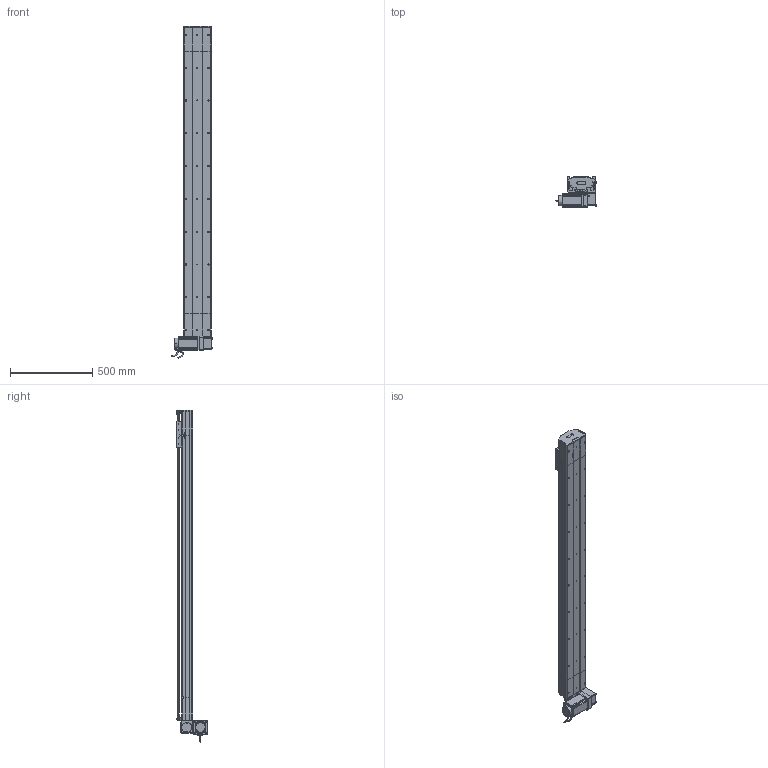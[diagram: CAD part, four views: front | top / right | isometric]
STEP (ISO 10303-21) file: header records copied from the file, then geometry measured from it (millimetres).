
FILE_DESCRIPTION (( 'STEP AP214' ), '1' );
FILE_NAME ('D17 TBH LU S1600.STEP', '2010-06-30T08:10:17', ( 'Christophe Gaillard' ), ( 'SGA' ), 'SwSTEP 2.0', 'SolidWorks 2010', '' );
FILE_SCHEMA (( 'AUTOMOTIVE_DESIGN' ));
Length unit declared in the file: millimetre
Products named in the file (40): D17 TBH LU S1600; corps 90BLDC125A-640; avant 90BLDC125A-640; Renvoi LU_Default; couroie head D17_Default; course 1600 D17B_Default; vis M5 L5_Default; corp D17B 1600_Default; Couroie+ rail D17 Course 1600 ; cache arbre D17_Default; poulie head_Default; couvercle D17B course L1600_Default; cache D17_Default; Arbre+rail head D17B; plaque de  bout head D17B LU_Default; Moteur motionking 90BLDC125A-640; couvercle D17B head_Default; corpl head D17 _Default; Head LU D17B_Default; Conecteur_Default; Conecteur2_Default; codeur 90BLDC125-640; Vis M5 L16-2_Default; vis M5 L16_Default; Plaque racord D17_Default; vis M5 L70_Default; tete d''axe poulie D17B; corpl tail D17B_Default; Tail D17B_Default; poulie tail_Default; plaque de  bout tail D17B_Default; Rail D17B; vis M5 L8 90°_Default; couvercle D17B_Default; Couroie tail D17B_Default; Chariot D17; chariot D17S_Default; vis M5 L25_Default; vis M5 L12_Default; guide D17
Assembly tree (70 placements, depth 4):
  D17 TBH LU S1600
    course 1600 D17B_Default
      couvercle D17B course L1600_Default
      Couroie+ rail D17 Course 1600 
      corp D17B 1600_Default
    Tail D17B_Default
      vis M5 L25_Default  x2
      vis M5 L12_Default  x4
      poulie tail_Default
      vis M5 L8 90°_Default  x2
      Couroie tail D17B_Default
      corpl tail D17B_Default
      plaque de  bout tail D17B_Default
      tete d''axe poulie D17B
      couvercle D17B_Default
      Rail D17B
    chariot D17S_Default
      vis M5 L12_Default  x4
      guide D17  x2
      Chariot D17
    Head LU D17B_Default
      vis M5 L12_Default  x8
      cache arbre D17_Default
      Vis M5 L16-2_Default  x4
      Renvoi LU_Default
      Moteur motionking 90BLDC125A-640
        corps 90BLDC125A-640
        Conecteur2_Default
        avant 90BLDC125A-640
        Conecteur_Default
        codeur 90BLDC125-640
      cache D17_Default  x2
      plaque de  bout head D17B LU_Default
      corpl head D17 _Default
      vis M5 L70_Default  x4
      vis M5 L5_Default  x4
      couvercle D17B head_Default
      vis M5 L16_Default  x2
      poulie head_Default
      Arbre+rail head D17B
      Plaque racord D17_Default
      vis M5 L25_Default  x2
      couroie head D17_Default
Bounding box: 245.2 x 188.65 x 2023.95 mm (x, y, z)
Volume: 12251688 mm3; surface area: 3486264.8 mm2
Topology: 94 solids, 94 shells, 2689 faces, 6777 edges, 4362 vertices
Faces by surface type: plane 1607, cylinder 769, bspline 136, cone 88, torus 85, sphere 4
Entity records: 84264 total; most frequent: CARTESIAN_POINT 24917, ORIENTED_EDGE 10326, DIRECTION 9804, EDGE_CURVE 5163, VECTOR 3438, LINE 3438, VERTEX_POINT 3386, AXIS2_PLACEMENT_3D 3183
